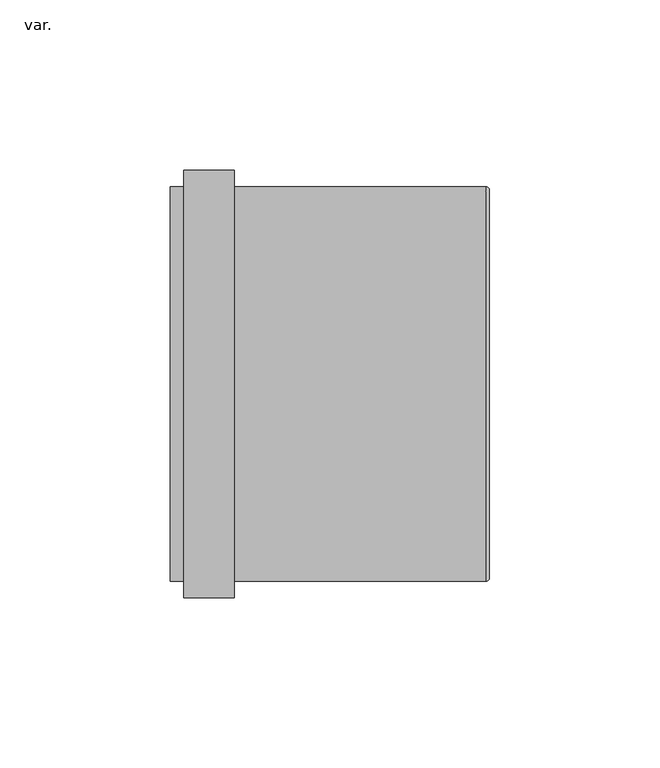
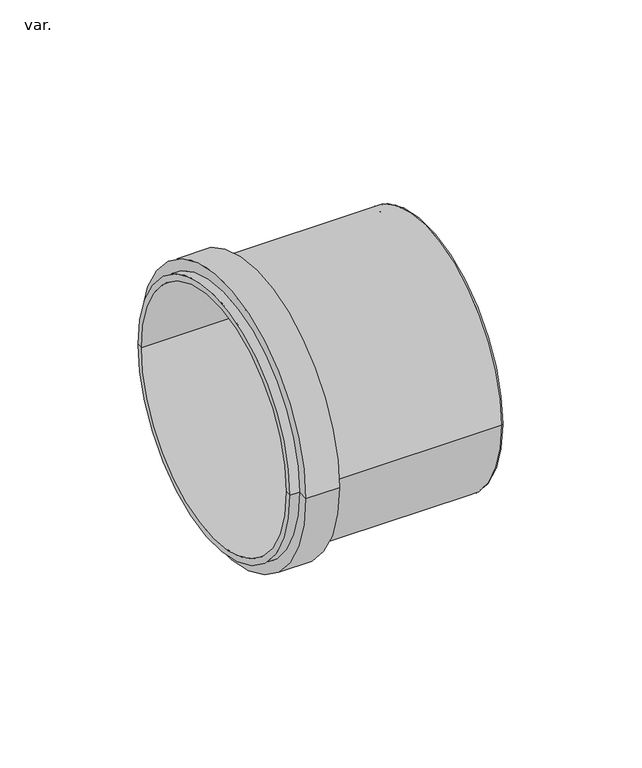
"""IFC4 building model written with IfcOpenShell, lengths in millimetres: pipe fitting geometry, AmancoWavin_Unionesdetubería_SilentiumTapa : var.."""

from ifc_helpers import new_model, si_unit, point, frame, origin, place, context, project, spatial, polyline, circle_curve, ellipse_curve, trimmed, source, transform, mapped, element, save
from ifc_brep_helpers import plane_surface, cylinder_surface, revolved_surface, advanced_brep


def var_ac23ebad(model_context):
    return source(origin(), model_context, "Body", "AdvancedBrep", [
        advanced_brep(
        [(-91.0, -57.9, 0.0), (-91.0, 57.9, 0.0), (-87.0, 57.9, 0.0), (-87.0, -57.9, 0.0), (-87.0, 62.75, 0.0), (-87.0, -62.75, 0.0), (-72.2, 62.75, 0.0), (-72.2, -62.75, 0.0), (-72.2, 57.9, 0.0), (-72.2, -57.9, 0.0), (1.7, 57.9, 0.0), (1.7, -57.9, 0.0), (2.7, 56.9, 0.0), (2.7, -56.9, 0.0), (2.7, 0.0, 0.0), (0.0, 0.0, 0.0), (0.0, 55.2, 0.0), (0.0, -55.2, 0.0), (-91.0, 55.2, 0.0), (-91.0, -55.2, 0.0)],
        [
            (0, 1, circle_curve(frame((-91.0, 0.0, 0.0), z_axis=(1.0, 0.0, 0.0), x_axis=(0.0, 1.0, 0.0)), 57.9)),
            (1, 2),
            (2, 3, circle_curve(frame((-87.0, 0.0, 0.0), z_axis=(-1.0, 0.0, 0.0), x_axis=(0.0, 1.0, 0.0)), 57.9)),
            (3, 0),
            (1, 0, circle_curve(frame((-91.0, 0.0, 0.0), z_axis=(1.0, 0.0, 0.0), x_axis=(0.0, 1.0, 0.0)), 57.9)),
            (3, 2, circle_curve(frame((-87.0, 0.0, 0.0), z_axis=(-1.0, 0.0, 0.0), x_axis=(0.0, 1.0, 0.0)), 57.9)),
            (2, 4),
            (4, 5, circle_curve(frame((-87.0, 0.0, 0.0), z_axis=(-1.0, 0.0, 0.0), x_axis=(0.0, 1.0, 0.0)), 62.75)),
            (5, 3),
            (5, 4, circle_curve(frame((-87.0, 0.0, 0.0), z_axis=(-1.0, 0.0, 0.0), x_axis=(0.0, 1.0, 0.0)), 62.75)),
            (4, 6),
            (6, 7, circle_curve(frame((-72.2, 0.0, 0.0), z_axis=(-1.0, 0.0, 0.0), x_axis=(0.0, 1.0, 0.0)), 62.75)),
            (7, 5),
            (7, 6, circle_curve(frame((-72.2, 0.0, 0.0), z_axis=(-1.0, 0.0, 0.0), x_axis=(0.0, 1.0, 0.0)), 62.75)),
            (6, 8),
            (8, 9, circle_curve(frame((-72.2, 0.0, 0.0), z_axis=(-1.0, 0.0, 0.0), x_axis=(0.0, 1.0, 0.0)), 57.9)),
            (9, 7),
            (9, 8, circle_curve(frame((-72.2, 0.0, 0.0), z_axis=(-1.0, 0.0, 0.0), x_axis=(0.0, 1.0, 0.0)), 57.9)),
            (8, 10),
            (10, 11, circle_curve(frame((1.7, 0.0, 0.0), z_axis=(-1.0, 0.0, 0.0), x_axis=(0.0, 1.0, 0.0)), 57.9)),
            (11, 9),
            (11, 10, circle_curve(frame((1.7, 0.0, 0.0), z_axis=(-1.0, 0.0, 0.0), x_axis=(0.0, 1.0, 0.0)), 57.9)),
            (10, 12, circle_curve(frame((1.7, 56.9, 0.0), z_axis=(0.0, 0.0, -1.0), x_axis=(-1.0, 0.0, 0.0)), 1.0)),
            (12, 13, circle_curve(frame((2.7, 0.0, 0.0), z_axis=(-1.0, 0.0, 0.0), x_axis=(0.0, 1.0, 0.0)), 56.9)),
            (13, 11, circle_curve(frame((1.7, -56.9, 0.0), z_axis=(0.0, 0.0, -1.0), x_axis=(-1.0, 0.0, 0.0)), 1.0)),
            (13, 12, circle_curve(frame((2.7, 0.0, 0.0), z_axis=(-1.0, 0.0, 0.0), x_axis=(0.0, 1.0, 0.0)), 56.9)),
            (12, 14),
            (14, 13),
            (15, 16),
            (16, 17, circle_curve(frame((0.0, 0.0, 0.0), z_axis=(-1.0, 0.0, 0.0), x_axis=(0.0, 1.0, 0.0)), 55.2)),
            (17, 15),
            (17, 16, circle_curve(frame((0.0, 0.0, 0.0), z_axis=(-1.0, 0.0, 0.0), x_axis=(0.0, 1.0, 0.0)), 55.2)),
            (16, 18),
            (18, 19, circle_curve(frame((-91.0, 0.0, 0.0), z_axis=(-1.0, 0.0, 0.0), x_axis=(0.0, 1.0, 0.0)), 55.2)),
            (19, 17),
            (19, 18, circle_curve(frame((-91.0, 0.0, 0.0), z_axis=(-1.0, 0.0, 0.0), x_axis=(0.0, 1.0, 0.0)), 55.2)),
            (18, 1),
            (0, 19),
        ],
        [
            cylinder_surface(frame((2001.1572854, 0.0, 0.0), z_axis=(-1.0, 0.0, 0.0), x_axis=(0.0, 1.0, 0.0)), 57.9),
            plane_surface(frame((-87.0, 0.0, 0.0), z_axis=(-1.0, 0.0, 0.0), x_axis=(0.0, 1.0, 0.0))),
            cylinder_surface(frame((2001.1572854, 0.0, 0.0), z_axis=(-1.0, 0.0, 0.0), x_axis=(0.0, 1.0, 0.0)), 62.75),
            plane_surface(frame((-72.2, 0.0, 0.0), z_axis=(1.0, 0.0, 0.0), x_axis=(0.0, 1.0, 0.0))),
            revolved_surface(trimmed(ellipse_curve(frame((1.7, 56.9, 0.0), z_axis=(0.0, 0.0, 1.0), x_axis=(-1.0, 0.0, 0.0)), 1.0, 1.0), [point((2.7, 56.9, 0.0))], [point((1.7, 57.9, 0.0))], True, "CARTESIAN"), (2001.1572854, 0.0, 0.0), (-1.0, 0.0, 0.0)),
            plane_surface(frame((2.7, 0.0, 0.0), z_axis=(1.0, 0.0, 0.0), x_axis=(0.0, 1.0, 0.0))),
            plane_surface(frame((0.0, 0.0, 0.0), z_axis=(-1.0, 0.0, 0.0), x_axis=(0.0, 1.0, 0.0))),
            revolved_surface(polyline([(-91.0, 55.2, 0.0), (0.0, 55.2, 0.0)]), (2001.1572854, 0.0, 0.0), (-1.0, 0.0, 0.0)),
            plane_surface(frame((-91.0, 0.0, 0.0), z_axis=(-1.0, 0.0, 0.0), x_axis=(0.0, 1.0, 0.0))),
        ],
        [
            (0, [[1, 2, 3, 4]]),
            (0, [[5, -4, 6, -2]]),
            (1, [[-3, 7, 8, 9]]),
            (1, [[-6, -9, 10, -7]]),
            (2, [[-8, 11, 12, 13]]),
            (2, [[-10, -13, 14, -11]]),
            (3, [[-12, 15, 16, 17]]),
            (3, [[-14, -17, 18, -15]]),
            (0, [[-16, 19, 20, 21]]),
            (0, [[-18, -21, 22, -19]]),
            (4, [[-20, 23, 24, 25]]),
            (4, [[-22, -25, 26, -23]]),
            (5, [[-24, 27, 28]]),
            (5, [[-26, -28, -27]]),
            (6, [[29, 30, 31]]),
            (6, [[-31, 32, -29]]),
            (7, [[-30, 33, 34, 35]]),
            (7, [[-32, -35, 36, -33]]),
            (8, [[-34, 37, -1, 38]]),
            (8, [[-36, -38, -5, -37]]),
        ],
    ),
    ])


if __name__ == "__main__":
    model = new_model("IFC4")
    model_context = context("Model", 3, world=origin())
    ifc_project = project(units=[si_unit("LENGTHUNIT", "METRE", prefix="MILLI")], contexts=[model_context])
    site = spatial("IfcSite", under=ifc_project)
    building = spatial("IfcBuilding", under=site)
    placement = place(None, origin())
    var_shape = var_ac23ebad(model_context)
    element("IfcPipeFitting", 1, ObjectType="AmancoWavin_Unionesdetubería_SilentiumTapa : var.", at=placement, inside=building, context=model_context, shape_type="MappedRepresentation", body=[
        mapped(var_shape, transform((0.0, 0.0, 0.0), x_axis=(1.0, 0.0, 0.0), y_axis=(0.0, 1.0, 0.0), z_axis=(0.0, 0.0, 1.0))),
    ])
    save(model, "model.ifc")
